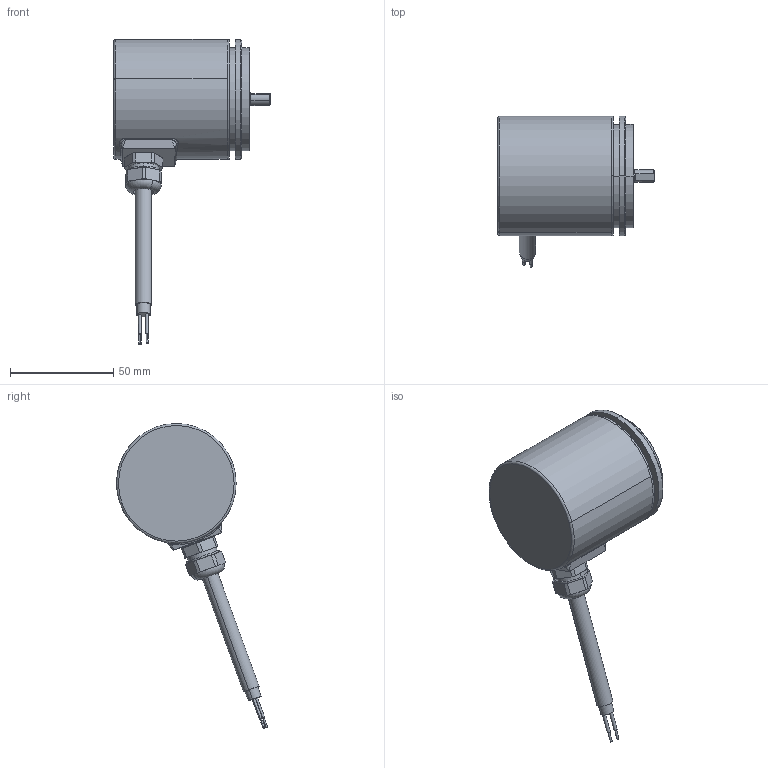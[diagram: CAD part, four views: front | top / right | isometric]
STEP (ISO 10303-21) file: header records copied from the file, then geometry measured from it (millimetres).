
FILE_DESCRIPTION (( 'STEP AP203' ), '1' );
FILE_NAME ('8.5805.21X2.XXXX.STEP', '2012-02-02T09:14:51', ( 'Hodot' ), ( 'Kuebler' ), 'SwSTEP 2.0', 'SolidWorks 2009', '' );
FILE_SCHEMA (( 'CONFIG_CONTROL_DESIGN' ));
Length unit declared in the file: millimetre
Products named in the file (1): 8.5805.21X2.XXXX
Bounding box: 75.95 x 73.2 x 147.77 mm (x, y, z)
Volume: 65512 mm3; surface area: 50631.7 mm2
Topology: 7 solids, 7 shells, 297 faces, 727 edges, 443 vertices
Faces by surface type: cylinder 107, plane 78, cone 45, torus 26, bspline 21, sphere 20
Entity records: 11656 total; most frequent: CARTESIAN_POINT 4901, DIRECTION 1462, ORIENTED_EDGE 1320, EDGE_CURVE 660, AXIS2_PLACEMENT_3D 618, VERTEX_POINT 413, EDGE_LOOP 363, CIRCLE 341
